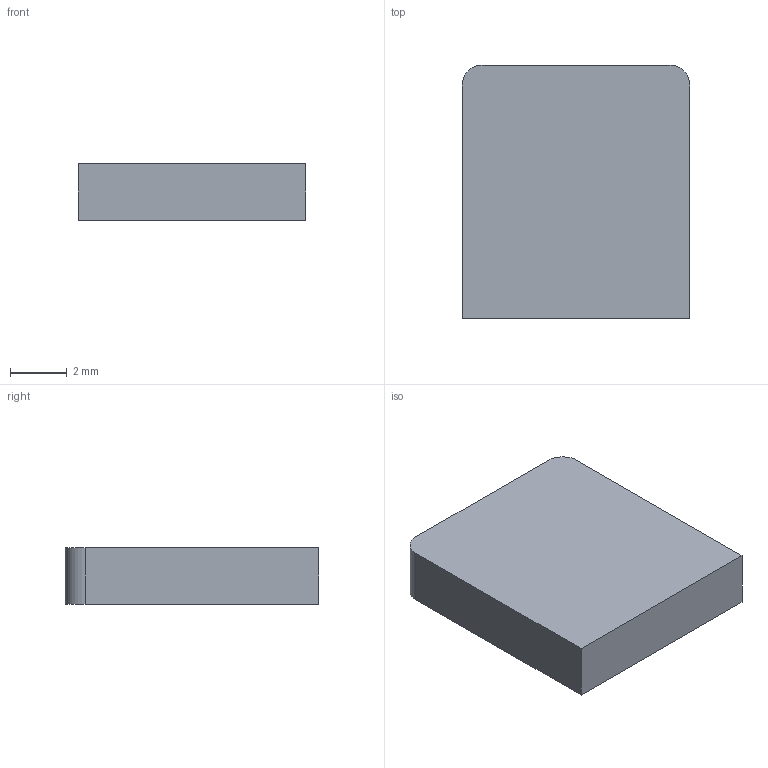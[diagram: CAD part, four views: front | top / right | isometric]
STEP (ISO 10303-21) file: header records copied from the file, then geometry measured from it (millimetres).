
FILE_DESCRIPTION(('Open CASCADE Model'),'2;1');
FILE_NAME('C27_UC1_Battery_Front_Pad_-1_Segment_2_FREE_STATE', '2026-09-09T20:28:31',('Author'),('Open CASCADE'), 'Open CASCADE STEP processor 7.9','build123d','Unknown');
FILE_SCHEMA(('AUTOMOTIVE_DESIGN { 1 0 10303 214 1 1 1 1 }'));
Length unit declared in the file: millimetre
Products named in the file (1): C27_UC1_Battery_Front_Pad_-1_Segment_2_FREE_STATE
Bounding box: 8 x 8.92 x 2 mm (x, y, z)
Volume: 142.3 mm3; surface area: 208.8 mm2
Topology: 1 solids, 1 shells, 8 faces, 18 edges, 12 vertices
Faces by surface type: plane 6, cylinder 2
Entity records: 470 total; most frequent: DIRECTION 76, CARTESIAN_POINT 75, LINE 46, VECTOR 46, ORIENTED_EDGE 36, PCURVE 36, DEFINITIONAL_REPRESENTATION 36, EDGE_CURVE 18
